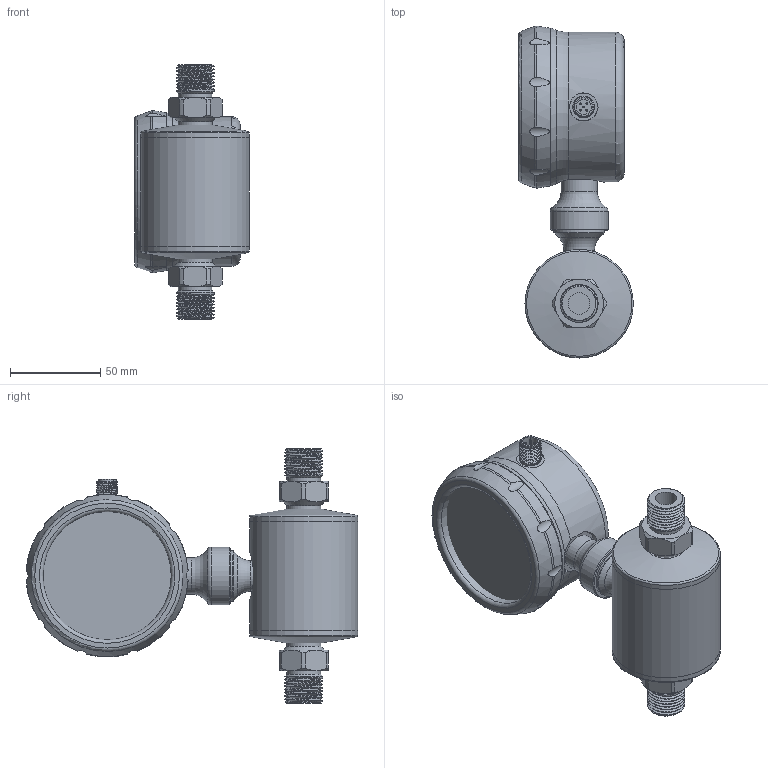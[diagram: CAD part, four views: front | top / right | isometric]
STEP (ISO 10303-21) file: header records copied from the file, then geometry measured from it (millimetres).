
FILE_DESCRIPTION( (''), '2;1');
FILE_NAME( 'QMKD_DN8_H25.4_male-thread.step', '2024-08-30T09:00:33+08:00', (''), (''), '', '', '');
FILE_SCHEMA (('AUTOMOTIVE_DESIGN { 1 0 10303 214 3 1 1 1 }'));
Length unit declared in the file: millimetre
Products named in the file (1): QMKD DN8_H25.4_male-thread
Bounding box: 63.5 x 183.81 x 141 mm (x, y, z)
Volume: 579163.1 mm3; surface area: 99494.8 mm2
Topology: 11 solids, 11 shells, 259 faces, 606 edges, 383 vertices
Faces by surface type: cylinder 94, plane 61, cone 48, torus 20, sphere 20, bspline 16
Full cylindrical faces by diameter (mm): 11.6 x2, 12 x2, 15 x2, 15.5 x1, 17 x1, 18 x2, 18.631 x2, 19 x2, 20 x1, 26 x1, 28 x1, 32 x1, 54 x2, 60 x3, 71 x1, 80 x2, 83 x1
Entity records: 11956 total; most frequent: CARTESIAN_POINT 6589, DIRECTION 1057, ORIENTED_EDGE 1022, EDGE_CURVE 511, AXIS2_PLACEMENT_3D 489, VERTEX_POINT 358, EDGE_LOOP 347, ADVANCED_FACE 258
